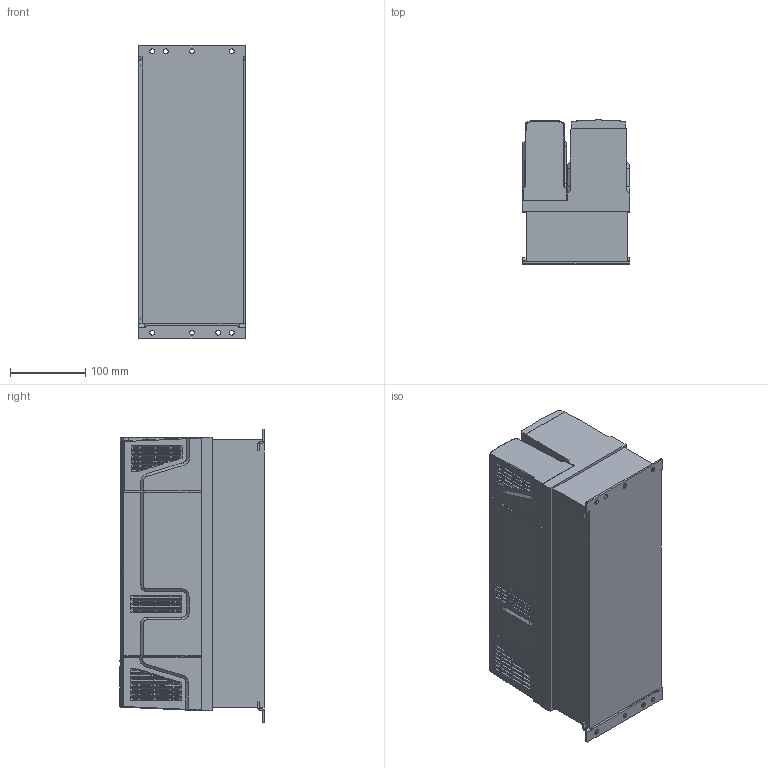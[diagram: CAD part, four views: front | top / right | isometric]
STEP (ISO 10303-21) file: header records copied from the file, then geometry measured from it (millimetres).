
FILE_DESCRIPTION (( 'STEP AP214' ), '1' );
FILE_NAME ('FDD305X_XXXXX_Export20221216.STEP', '2022-12-16T12:22:52', ( 'Windows-Benutzer' ), ( '' ), 'SwSTEP 2.0', 'SolidWorks 2020', '' );
FILE_SCHEMA (( 'AUTOMOTIVE_DESIGN' ));
Length unit declared in the file: millimetre
Products named in the file (1): FDD305X_XXXXX_Export20221216
Bounding box: 143 x 191.98 x 391 mm (x, y, z)
Volume: 4770204.9 mm3; surface area: 693263.4 mm2
Topology: 1 solids, 1 shells, 1684 faces, 5057 edges, 3275 vertices
Faces by surface type: plane 1029, bspline 357, cylinder 248, cone 50
Entity records: 93655 total; most frequent: CARTESIAN_POINT 38193, ORIENTED_EDGE 10114, DIRECTION 6528, EDGE_CURVE 5057, VERTEX_POINT 3275, LINE 3004, VECTOR 3004, EDGE_LOOP 1980
